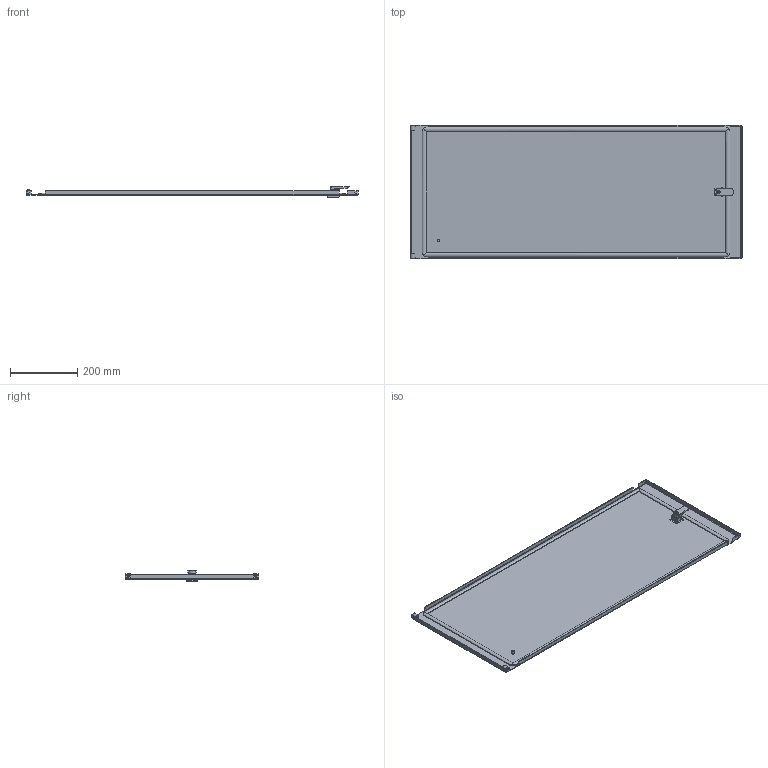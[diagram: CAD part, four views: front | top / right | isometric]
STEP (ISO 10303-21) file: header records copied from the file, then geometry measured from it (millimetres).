
FILE_DESCRIPTION(('STEP AP203'), '1');
FILE_NAME('Äâåðü ñåêöèîííàÿ 400õ1000 ìì OptiBox M 419371 ÊÝÀÇ', '', ('UNSPECIFIED'), ('UNSPECIFIED'), 'C3D Converter', 'C3D Toolkit', '');
FILE_SCHEMA(('CONFIG_CONTROL_DESIGN'));
Length unit declared in the file: millimetre
Bounding box: 986.4 x 397 x 32.2 mm (x, y, z)
Volume: 974362.7 mm3; surface area: 932587.6 mm2
Topology: 6 solids, 6 shells, 355 faces, 928 edges, 588 vertices
Faces by surface type: plane 252, cylinder 92, bspline 8, cone 2, torus 1
Full cylindrical faces by diameter (mm): 0.75 x1, 1 x1, 3 x1, 5 x2, 6 x1, 7.5 x1, 9.3 x1, 10 x1, 20 x1
Entity records: 11864 total; most frequent: CARTESIAN_POINT 3095, ORIENTED_EDGE 1830, DIRECTION 1731, EDGE_CURVE 915, LINE 705, VECTOR 705, VERTEX_POINT 588, AXIS2_PLACEMENT_3D 513
